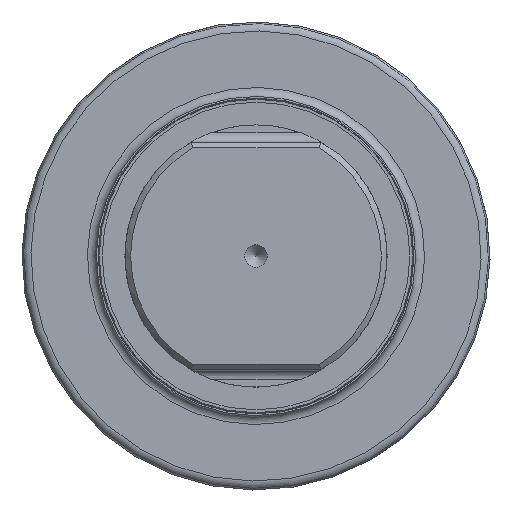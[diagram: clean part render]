
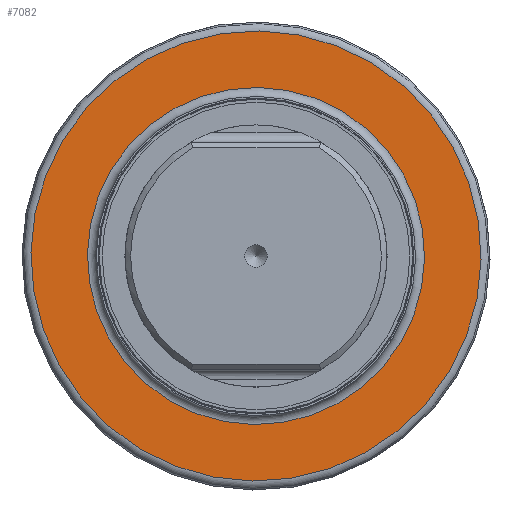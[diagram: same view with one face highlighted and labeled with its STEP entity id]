
A CAD part, left-side view. The second image highlights one B-rep face of the part: STEP entity #7082.
In plain terms, the highlighted planar face has unit normal (-1, 0, 0) as drawn and (1, 0, 0) by its records, which use the part's own axes.
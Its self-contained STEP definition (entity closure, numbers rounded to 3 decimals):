
#2357 = PLANE ( 'NONE',  #7816 ) ;
#2849 = DIRECTION ( 'NONE',  ( -1., 0., 0. ) ) ;
#3499 = CIRCLE ( 'NONE', #13719, 14.787 ) ;
#3702 = DIRECTION ( 'NONE',  ( 0., 0., 1. ) ) ;
#4384 = DIRECTION ( 'NONE',  ( 0., 0., 1. ) ) ;
#4399 = EDGE_CURVE ( 'NONE', #10265, #10265, #3499, .T. ) ;
#4828 = DIRECTION ( 'NONE',  ( -1., 0., 0. ) ) ;
#6522 = AXIS2_PLACEMENT_3D ( 'NONE', #14934, #17772, #3702 ) ;
#7082 = ADVANCED_FACE ( 'NONE', ( #13421, #10588 ), #2357, .F. ) ;
#7816 = AXIS2_PLACEMENT_3D ( 'NONE', #9386, #4828, #15972 ) ;
#7991 = EDGE_CURVE ( 'NONE', #14160, #14160, #17008, .T. ) ;
#8225 = ORIENTED_EDGE ( 'NONE', *, *, #7991, .F. ) ;
#9386 = CARTESIAN_POINT ( 'NONE',  ( 48.306, 14.787, 0. ) ) ;
#10265 = VERTEX_POINT ( 'NONE', #17116 ) ;
#10588 = FACE_BOUND ( 'NONE', #10805, .T. ) ;
#10805 = EDGE_LOOP ( 'NONE', ( #15044 ) ) ;
#11261 = CARTESIAN_POINT ( 'NONE',  ( 48.306, 0., 0. ) ) ;
#13421 = FACE_OUTER_BOUND ( 'NONE', #13979, .T. ) ;
#13719 = AXIS2_PLACEMENT_3D ( 'NONE', #11261, #2849, #4384 ) ;
#13979 = EDGE_LOOP ( 'NONE', ( #8225 ) ) ;
#14160 = VERTEX_POINT ( 'NONE', #15276 ) ;
#14934 = CARTESIAN_POINT ( 'NONE',  ( 48.306, 0., 0. ) ) ;
#15044 = ORIENTED_EDGE ( 'NONE', *, *, #4399, .T. ) ;
#15276 = CARTESIAN_POINT ( 'NONE',  ( 48.306, 0., 19.748 ) ) ;
#15972 = DIRECTION ( 'NONE',  ( 0., 0., 1. ) ) ;
#17008 = CIRCLE ( 'NONE', #6522, 19.748 ) ;
#17116 = CARTESIAN_POINT ( 'NONE',  ( 48.306, 0., 14.787 ) ) ;
#17772 = DIRECTION ( 'NONE',  ( -1., 0., 0. ) ) ;
